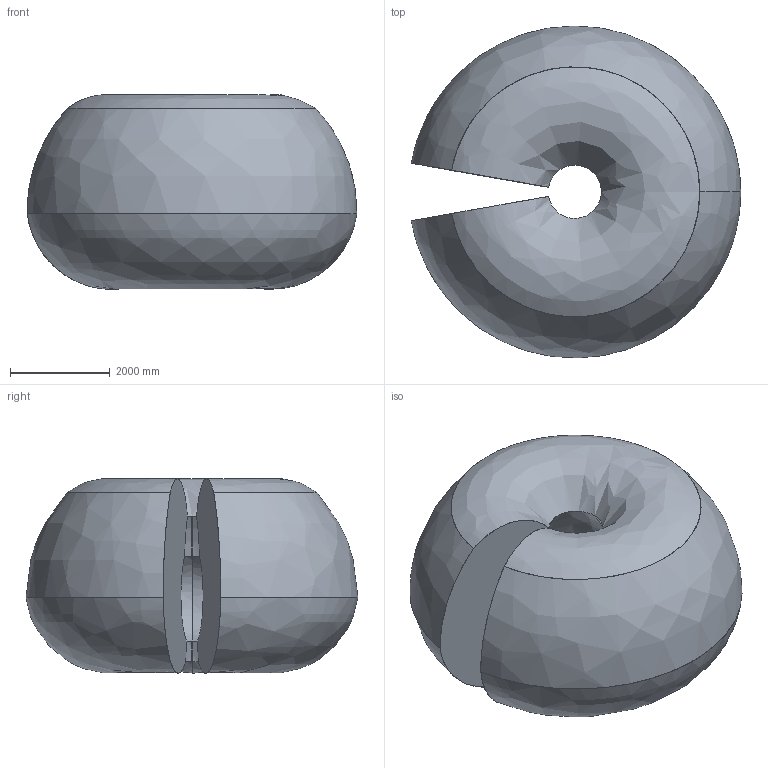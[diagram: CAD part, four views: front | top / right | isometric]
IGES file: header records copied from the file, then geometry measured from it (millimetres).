
Start section: SolidWorks IGES file using analytic representation for surfaces
Global section: file name: C:\Users\SEJAOLS6\OneDrive - ABB\Documents\SAP\7720\7720_Lightweight_models\IRB7720-MH3_510kg-330_OC_01_SW_J\IRB7710-MH3_510kg-330_OC_01_IGES_J\IRB77X0_All-330_OC_00_Working-space.igs; native system: SolidWorks 2024; preprocessor: SolidWorks 2024; author: SEJAOLS6; date: 260127.082541; units: millimetre
Bounding box: 6596.2 x 6646.39 x 3895.62 mm (x, y, z)
Surface area: 142493235.4 mm2 (no closed solid volume)
Topology: 0 solids, 0 shells, 13 faces, 294 edges, 294 vertices
Faces by surface type: bspline 13
